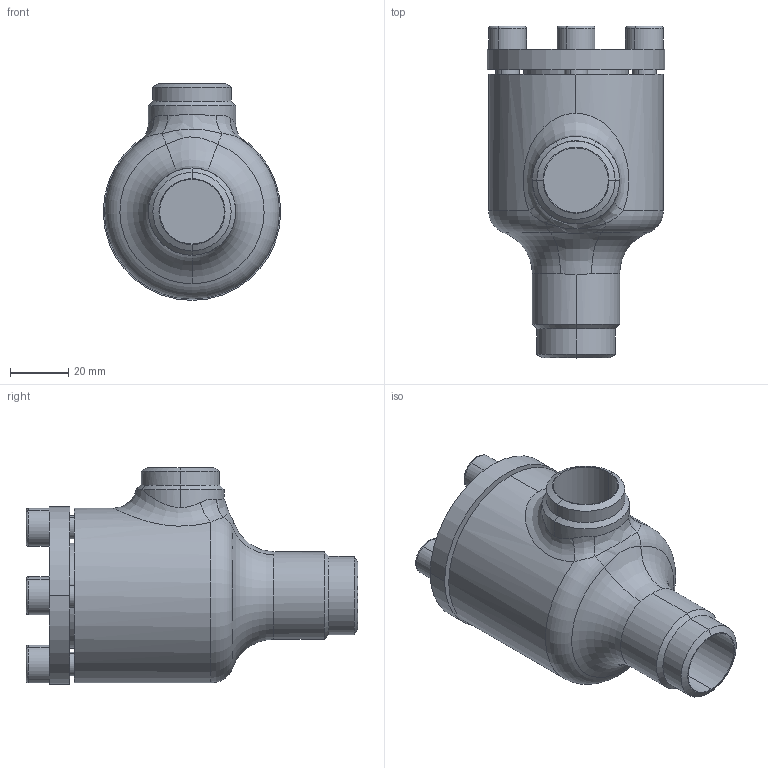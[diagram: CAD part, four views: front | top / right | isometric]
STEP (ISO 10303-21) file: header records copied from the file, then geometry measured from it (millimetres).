
FILE_DESCRIPTION (( 'STEP AP214' ), '1' );
FILE_NAME ('SS52400D11-DN020_R1_PS40.STEP', '2006-05-02T05:50:48', ( 'Herr Grams' ), ( 'AWP GmbH' ), 'SwSTEP 2.0', 'SolidWorks 2002296', '' );
FILE_SCHEMA (( 'AUTOMOTIVE_DESIGN' ));
Length unit declared in the file: millimetre
Products named in the file (5): SS52400D11-DN020_R1_PS40; Gehäuse16400-DN020_Standard; SS52300K10_Deck+Schr-DN10-20_Standard; Deckel52300K10-DN10-20_Standard; Zylinderschraube-DIN912_M 8x 16
Assembly tree (7 placements, depth 3):
  SS52400D11-DN020_R1_PS40
    Gehäuse16400-DN020_Standard
    SS52300K10_Deck+Schr-DN10-20_Standard
      Zylinderschraube-DIN912_M 8x 16  x4
      Deckel52300K10-DN10-20_Standard
Bounding box: 61 x 114 x 74.5 mm (x, y, z)
Volume: 194940.8 mm3; surface area: 37431.4 mm2
Topology: 6 solids, 6 shells, 136 faces, 291 edges, 181 vertices
Faces by surface type: plane 52, cylinder 49, cone 17, torus 11, bspline 7
Entity records: 11995 total; most frequent: CARTESIAN_POINT 9699, DIRECTION 424, ORIENTED_EDGE 354, AXIS2_PLACEMENT_3D 180, EDGE_CURVE 177, VERTEX_POINT 109, EDGE_LOOP 98, CIRCLE 94
